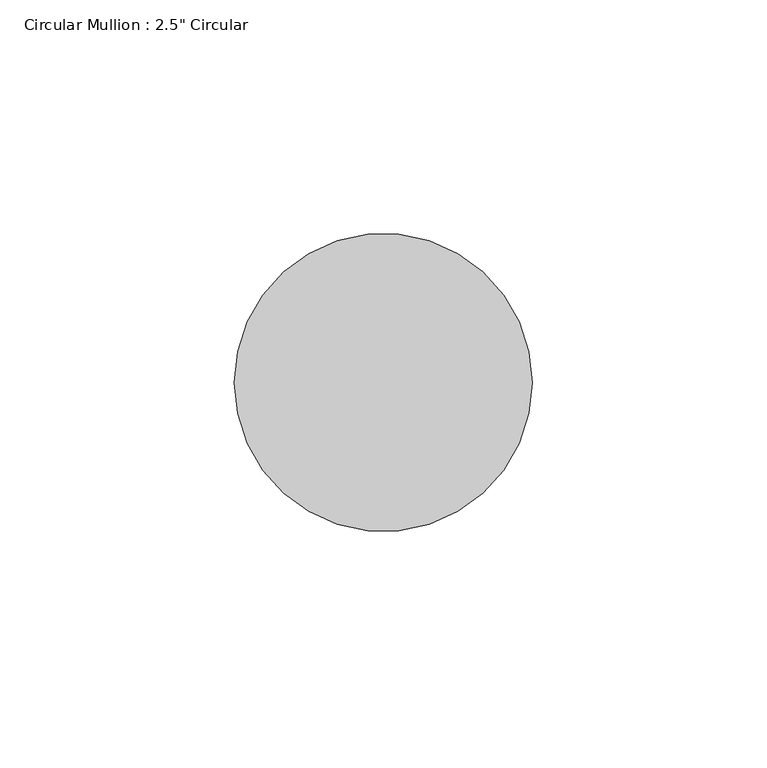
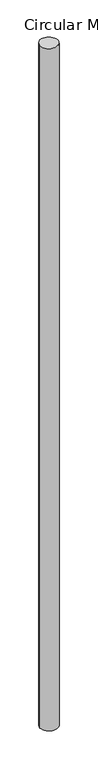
"""IFC4 building model written with IfcOpenShell, lengths in millimetres: member geometry."""

from ifc_helpers import new_model, si_unit, point, frame, origin, origin_2d, place, context, project, spatial, circle_curve, trimmed, segment, composite_curve, outline, extrude, source, transform, mapped, element, save


def member_5fad69b9(model_context):
    return source(origin(), model_context, "Body", "SweptSolid", [
        extrude(outline(composite_curve([segment(trimmed(circle_curve(origin_2d(), 31.75), [point((31.75, 0.0))], [point((-31.75, 0.0))], False, "CARTESIAN"), True, "CONTINUOUS"), segment(trimmed(circle_curve(origin_2d(), 31.75), [point((-31.75, 0.0))], [point((31.75, 0.0))], False, "CARTESIAN"), True, "CONTINUOUS")], self_intersect=False)), frame((0.0, 0.0, -2589.0829991), z_axis=(0.0, 0.0, 1.0), x_axis=(1.0, 0.0, 0.0)), (0.0, 0.0, 1.0), 2589.0829991),
    ])


if __name__ == "__main__":
    model = new_model("IFC4")
    model_context = context("Model", 3, world=origin())
    ifc_project = project(units=[si_unit("LENGTHUNIT", "METRE", prefix="MILLI")], contexts=[model_context])
    site = spatial("IfcSite", under=ifc_project)
    building = spatial("IfcBuilding", under=site)
    placement = place(None, origin())
    member_shape = member_5fad69b9(model_context)
    element("IfcMember", 1, ObjectType="Circular Mullion : 2.5\" Circular", at=placement, inside=building, context=model_context, shape_type="MappedRepresentation", body=[
        mapped(member_shape, transform((0.0, 0.0, 0.0), x_axis=(1.0, 0.0, 0.0), y_axis=(0.0, 1.0, 0.0), z_axis=(0.0, 0.0, 1.0))),
    ])
    save(model, "model.ifc")
